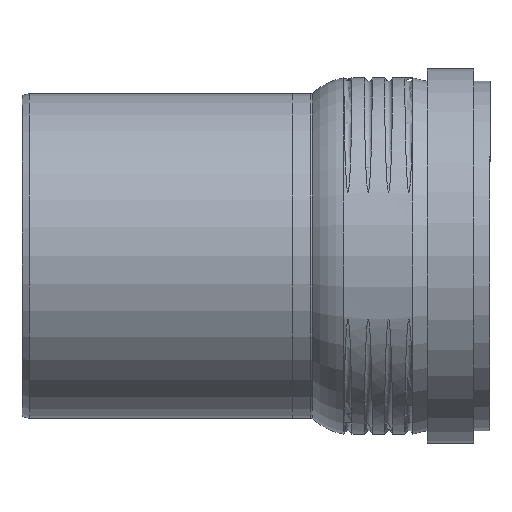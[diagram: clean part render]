
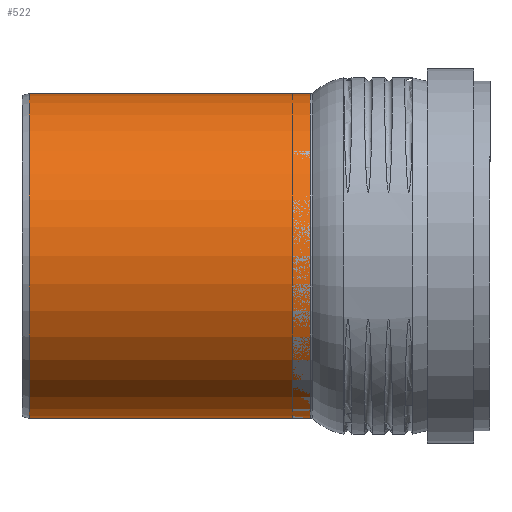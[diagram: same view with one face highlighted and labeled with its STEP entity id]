
A CAD part, top view. The second image highlights one B-rep face of the part: STEP entity #522.
In plain terms, the highlighted cylindrical face has radius 80.125 mm (diameter 160.25 mm), a full revolution.
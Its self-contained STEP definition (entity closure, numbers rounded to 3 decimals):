
#65=CYLINDRICAL_SURFACE('',#568,80.125);
#86=FACE_BOUND('',#158,.T.);
#122=FACE_OUTER_BOUND('',#157,.T.);
#157=EDGE_LOOP('',(#364));
#158=EDGE_LOOP('',(#365));
#223=CIRCLE('',#564,80.125);
#226=CIRCLE('',#569,80.125);
#248=VERTEX_POINT('',#756);
#251=VERTEX_POINT('',#764);
#301=EDGE_CURVE('',#248,#248,#223,.T.);
#304=EDGE_CURVE('',#251,#251,#226,.T.);
#364=ORIENTED_EDGE('',*,*,#304,.F.);
#365=ORIENTED_EDGE('',*,*,#301,.F.);
#522=ADVANCED_FACE('',(#122,#86),#65,.T.);
#564=AXIS2_PLACEMENT_3D('',#757,#630,#631);
#568=AXIS2_PLACEMENT_3D('',#763,#638,#639);
#569=AXIS2_PLACEMENT_3D('',#765,#640,#641);
#630=DIRECTION('center_axis',(-1.,0.,0.));
#631=DIRECTION('ref_axis',(0.,1.,0.));
#638=DIRECTION('center_axis',(1.,0.,0.));
#639=DIRECTION('ref_axis',(0.,1.,0.));
#640=DIRECTION('center_axis',(1.,0.,0.));
#641=DIRECTION('ref_axis',(0.,1.,0.));
#756=CARTESIAN_POINT('',(-67.5,-80.125,0.));
#757=CARTESIAN_POINT('Origin',(-67.5,0.,0.));
#763=CARTESIAN_POINT('Origin',(0.,0.,
0.));
#764=CARTESIAN_POINT('',(71.,-80.125,0.));
#765=CARTESIAN_POINT('Origin',(71.,0.,0.));
